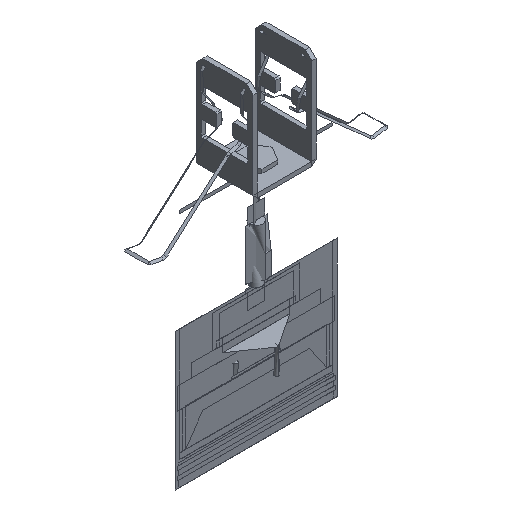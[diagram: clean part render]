
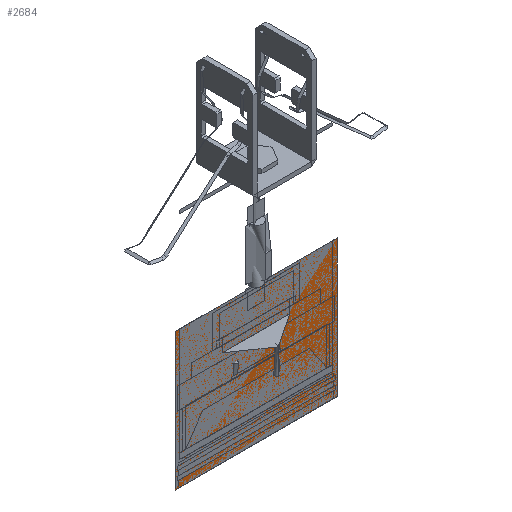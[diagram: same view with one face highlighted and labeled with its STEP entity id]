
A CAD part, isometric view. The second image highlights one B-rep face of the part: STEP entity #2684.
In plain terms, the highlighted free-form (B-spline) face has degree [2, 1] with [5, 2] control points.
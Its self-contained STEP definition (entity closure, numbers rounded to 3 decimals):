
#1670=B_SPLINE_CURVE_WITH_KNOTS('',1,(#33090,#33091),.UNSPECIFIED.,.F.,
 .F.,(2,2),(-69.201,0.),.UNSPECIFIED.);
#1674=B_SPLINE_CURVE_WITH_KNOTS('',1,(#33098,#33099),.UNSPECIFIED.,.F.,
 .F.,(2,2),(58.201,121.201),.UNSPECIFIED.);
#1675=B_SPLINE_CURVE_WITH_KNOTS('',1,(#33100,#33101),.UNSPECIFIED.,.F.,
 .F.,(2,2),(58.201,121.201),.UNSPECIFIED.);
#1676=B_SPLINE_CURVE_WITH_KNOTS('',1,(#33107,#33108),.UNSPECIFIED.,.F.,
 .F.,(2,2),(-69.201,0.),.UNSPECIFIED.);
#1677=B_SPLINE_CURVE_WITH_KNOTS('',1,(#33109,#33110),.UNSPECIFIED.,.F.,
 .F.,(2,2),(-121.201,-58.201),.UNSPECIFIED.);
#1678=B_SPLINE_CURVE_WITH_KNOTS('',1,(#33111,#33112),.UNSPECIFIED.,.F.,
 .F.,(2,2),(-121.201,-58.201),.UNSPECIFIED.);
#1679=B_SPLINE_CURVE_WITH_KNOTS('',1,(#33113,#33114),.UNSPECIFIED.,.F.,
 .F.,(2,2),(-69.201,0.),.UNSPECIFIED.);
#1685=B_SPLINE_CURVE_WITH_KNOTS('',1,(#33130,#33131),.UNSPECIFIED.,.F.,
 .F.,(2,2),(-69.201,0.),.UNSPECIFIED.);
#1761=B_SPLINE_CURVE_WITH_KNOTS('',1,(#33352,#33353),.UNSPECIFIED.,.F.,
 .F.,(2,2),(-121.201,-58.201),.UNSPECIFIED.);
#1763=B_SPLINE_CURVE_WITH_KNOTS('',1,(#33361,#33362),.UNSPECIFIED.,.F.,
 .F.,(2,2),(58.201,121.201),.UNSPECIFIED.);
#2170=(
BOUNDED_SURFACE()
B_SPLINE_SURFACE(2,1,((#32696,#32697),(#32698,#32699),(#32700,#32701),(#32702,
#32703),(#32704,#32705)),.UNSPECIFIED.,.F.,.F.,.F.)
B_SPLINE_SURFACE_WITH_KNOTS((3,2,3),(2,2),(0.,34.601,69.201),
(56.,58.201),.UNSPECIFIED.)
GEOMETRIC_REPRESENTATION_ITEM()
RATIONAL_B_SPLINE_SURFACE(((1.,1.),(0.707,0.707),
(1.,1.),(0.707,0.707),(1.,1.)))
REPRESENTATION_ITEM('')
SURFACE()
);
#2171=(
BOUNDED_SURFACE()
B_SPLINE_SURFACE(2,1,((#32706,#32707),(#32708,#32709),(#32710,#32711),(#32712,
#32713),(#32714,#32715)),.UNSPECIFIED.,.F.,.F.,.F.)
B_SPLINE_SURFACE_WITH_KNOTS((3,2,3),(2,2),(0.,34.601,69.201),
(58.201,121.201),.UNSPECIFIED.)
GEOMETRIC_REPRESENTATION_ITEM()
RATIONAL_B_SPLINE_SURFACE(((1.,1.),(0.707,0.707),
(1.,1.),(0.707,0.707),(1.,1.)))
REPRESENTATION_ITEM('')
SURFACE()
);
#2172=(
BOUNDED_SURFACE()
B_SPLINE_SURFACE(2,1,((#32716,#32717),(#32718,#32719),(#32720,#32721),(#32722,
#32723),(#32724,#32725)),.UNSPECIFIED.,.F.,.F.,.F.)
B_SPLINE_SURFACE_WITH_KNOTS((3,2,3),(2,2),(0.,34.601,69.201),
(121.201,122.701),.UNSPECIFIED.)
GEOMETRIC_REPRESENTATION_ITEM()
RATIONAL_B_SPLINE_SURFACE(((1.,1.),(0.707,0.707),
(1.,1.),(0.707,0.707),(1.,1.)))
REPRESENTATION_ITEM('')
SURFACE()
);
#2187=(
BOUNDED_SURFACE()
B_SPLINE_SURFACE(2,1,((#32866,#32867),(#32868,#32869),(#32870,#32871),(#32872,
#32873),(#32874,#32875)),.UNSPECIFIED.,.F.,.F.,.F.)
B_SPLINE_SURFACE_WITH_KNOTS((3,2,3),(2,2),(69.201,103.802,
138.403),(58.201,121.201),.UNSPECIFIED.)
GEOMETRIC_REPRESENTATION_ITEM()
RATIONAL_B_SPLINE_SURFACE(((1.,1.),(0.707,0.707),
(1.,1.),(0.707,0.707),(1.,1.)))
REPRESENTATION_ITEM('')
SURFACE()
);
#2684=ADVANCED_FACE('',(#3070),#2171,.T.);
#3070=FACE_OUTER_BOUND('',#3480,.T.);
#3480=EDGE_LOOP('',(#4997,#4998,#4999,#5000));
#4997=ORIENTED_EDGE('',*,*,#10317,.T.);
#4998=ORIENTED_EDGE('',*,*,#10318,.T.);
#4999=ORIENTED_EDGE('',*,*,#10319,.T.);
#5000=ORIENTED_EDGE('',*,*,#10315,.F.);
#6654=PCURVE('',#2170,#8314);
#6657=PCURVE('',#2171,#8317);
#6658=PCURVE('',#2171,#8318);
#6659=PCURVE('',#2171,#8319);
#6660=PCURVE('',#2171,#8320);
#6664=PCURVE('',#2172,#8324);
#6722=PCURVE('',#2187,#8382);
#6724=PCURVE('',#2187,#8384);
#8314=DEFINITIONAL_REPRESENTATION('',(#1670),#34045);
#8317=DEFINITIONAL_REPRESENTATION('',(#1675),#34045);
#8318=DEFINITIONAL_REPRESENTATION('',(#1676),#34045);
#8319=DEFINITIONAL_REPRESENTATION('',(#1678),#34045);
#8320=DEFINITIONAL_REPRESENTATION('',(#1679),#34045);
#8324=DEFINITIONAL_REPRESENTATION('',(#1685),#34045);
#8382=DEFINITIONAL_REPRESENTATION('',(#1761),#34045);
#8384=DEFINITIONAL_REPRESENTATION('',(#1763),#34045);
#9366=SURFACE_CURVE('',#11137,(#6654,#6660),.PCURVE_S1.);
#9368=SURFACE_CURVE('',#1674,(#6657,#6724),.PCURVE_S1.);
#9369=SURFACE_CURVE('',#11138,(#6658,#6664),.PCURVE_S1.);
#9370=SURFACE_CURVE('',#1677,(#6659,#6722),.PCURVE_S1.);
#10315=EDGE_CURVE('',#11747,#11738,#9366,.T.);
#10317=EDGE_CURVE('',#11747,#11748,#9368,.T.);
#10318=EDGE_CURVE('',#11748,#11737,#9369,.T.);
#10319=EDGE_CURVE('',#11737,#11738,#9370,.T.);
#11137=(
BOUNDED_CURVE()
B_SPLINE_CURVE(2,(#33085,#33086,#33087,#33088,#33089),.UNSPECIFIED.,.F.,
 .F.)
B_SPLINE_CURVE_WITH_KNOTS((3,2,3),(-69.201,-34.601,
0.),.UNSPECIFIED.)
CURVE()
GEOMETRIC_REPRESENTATION_ITEM()
RATIONAL_B_SPLINE_CURVE((1.,0.707,1.,0.707,1.))
REPRESENTATION_ITEM('')
);
#11138=(
BOUNDED_CURVE()
B_SPLINE_CURVE(2,(#33102,#33103,#33104,#33105,#33106),.UNSPECIFIED.,.F.,
 .F.)
B_SPLINE_CURVE_WITH_KNOTS((3,2,3),(-69.201,-34.601,
0.),.UNSPECIFIED.)
CURVE()
GEOMETRIC_REPRESENTATION_ITEM()
RATIONAL_B_SPLINE_CURVE((1.,0.707,1.,0.707,1.))
REPRESENTATION_ITEM('')
);
#11737=VERTEX_POINT('',#32987);
#11738=VERTEX_POINT('',#32988);
#11747=VERTEX_POINT('',#32997);
#11748=VERTEX_POINT('',#32998);
#32696=CARTESIAN_POINT('',(35.,0.,63.));
#32697=CARTESIAN_POINT('',(37.201,0.,63.));
#32698=CARTESIAN_POINT('',(35.,-35.,63.));
#32699=CARTESIAN_POINT('',(37.201,-37.201,63.));
#32700=CARTESIAN_POINT('',(0.,-35.,63.));
#32701=CARTESIAN_POINT('',(0.,-37.201,63.));
#32702=CARTESIAN_POINT('',(-35.,-35.,63.));
#32703=CARTESIAN_POINT('',(-37.201,-37.201,63.));
#32704=CARTESIAN_POINT('',(-35.,0.,63.));
#32705=CARTESIAN_POINT('',(-37.201,0.,63.));
#32706=CARTESIAN_POINT('',(37.201,0.,63.));
#32707=CARTESIAN_POINT('',(37.201,0.,0.));
#32708=CARTESIAN_POINT('',(37.201,-37.201,63.));
#32709=CARTESIAN_POINT('',(37.201,-37.201,0.));
#32710=CARTESIAN_POINT('',(0.,-37.201,63.));
#32711=CARTESIAN_POINT('',(0.,-37.201,0.));
#32712=CARTESIAN_POINT('',(-37.201,-37.201,63.));
#32713=CARTESIAN_POINT('',(-37.201,-37.201,0.));
#32714=CARTESIAN_POINT('',(-37.201,0.,63.));
#32715=CARTESIAN_POINT('',(-37.201,0.,0.));
#32716=CARTESIAN_POINT('',(37.201,0.,0.));
#32717=CARTESIAN_POINT('',(35.701,0.,0.));
#32718=CARTESIAN_POINT('',(37.201,-37.201,0.));
#32719=CARTESIAN_POINT('',(35.701,-35.701,0.));
#32720=CARTESIAN_POINT('',(0.,-37.201,0.));
#32721=CARTESIAN_POINT('',(0.,-35.701,0.));
#32722=CARTESIAN_POINT('',(-37.201,-37.201,0.));
#32723=CARTESIAN_POINT('',(-35.701,-35.701,0.));
#32724=CARTESIAN_POINT('',(-37.201,0.,0.));
#32725=CARTESIAN_POINT('',(-35.701,0.,0.));
#32866=CARTESIAN_POINT('',(-37.201,0.,63.));
#32867=CARTESIAN_POINT('',(-37.201,0.,0.));
#32868=CARTESIAN_POINT('',(-37.201,37.201,63.));
#32869=CARTESIAN_POINT('',(-37.201,37.201,0.));
#32870=CARTESIAN_POINT('',(0.,37.201,63.));
#32871=CARTESIAN_POINT('',(0.,37.201,0.));
#32872=CARTESIAN_POINT('',(37.201,37.201,63.));
#32873=CARTESIAN_POINT('',(37.201,37.201,0.));
#32874=CARTESIAN_POINT('',(37.201,0.,63.));
#32875=CARTESIAN_POINT('',(37.201,0.,0.));
#32987=CARTESIAN_POINT('',(37.201,0.,0.));
#32988=CARTESIAN_POINT('',(37.201,0.,63.));
#32997=CARTESIAN_POINT('',(-37.201,0.,63.));
#32998=CARTESIAN_POINT('',(-37.201,0.,0.));
#33085=CARTESIAN_POINT('',(-37.201,0.,63.));
#33086=CARTESIAN_POINT('',(-37.201,-37.201,63.));
#33087=CARTESIAN_POINT('',(0.,-37.201,63.));
#33088=CARTESIAN_POINT('',(37.201,-37.201,63.));
#33089=CARTESIAN_POINT('',(37.201,0.,63.));
#33090=CARTESIAN_POINT('',(69.201,58.201));
#33091=CARTESIAN_POINT('',(0.,58.201));
#33098=CARTESIAN_POINT('',(-37.201,0.,63.));
#33099=CARTESIAN_POINT('',(-37.201,0.,0.));
#33100=CARTESIAN_POINT('',(69.201,58.201));
#33101=CARTESIAN_POINT('',(69.201,121.201));
#33102=CARTESIAN_POINT('',(-37.201,0.,0.));
#33103=CARTESIAN_POINT('',(-37.201,-37.201,0.));
#33104=CARTESIAN_POINT('',(0.,-37.201,0.));
#33105=CARTESIAN_POINT('',(37.201,-37.201,0.));
#33106=CARTESIAN_POINT('',(37.201,0.,0.));
#33107=CARTESIAN_POINT('',(69.201,121.201));
#33108=CARTESIAN_POINT('',(0.,121.201));
#33109=CARTESIAN_POINT('',(37.201,0.,0.));
#33110=CARTESIAN_POINT('',(37.201,0.,63.));
#33111=CARTESIAN_POINT('',(0.,121.201));
#33112=CARTESIAN_POINT('',(0.,58.201));
#33113=CARTESIAN_POINT('',(69.201,58.201));
#33114=CARTESIAN_POINT('',(0.,58.201));
#33130=CARTESIAN_POINT('',(69.201,121.201));
#33131=CARTESIAN_POINT('',(0.,121.201));
#33352=CARTESIAN_POINT('',(138.403,121.201));
#33353=CARTESIAN_POINT('',(138.403,58.201));
#33361=CARTESIAN_POINT('',(69.201,58.201));
#33362=CARTESIAN_POINT('',(69.201,121.201));
#34045=(
GEOMETRIC_REPRESENTATION_CONTEXT(2)
PARAMETRIC_REPRESENTATION_CONTEXT()
REPRESENTATION_CONTEXT('pspace','')
);
